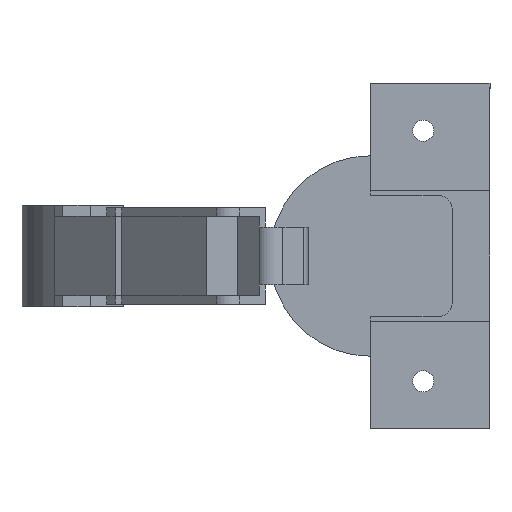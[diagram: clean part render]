
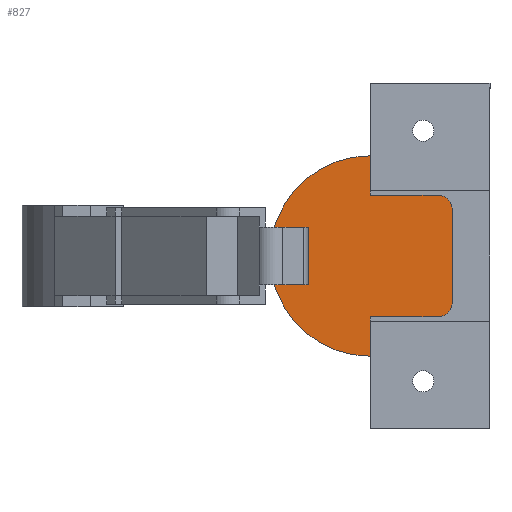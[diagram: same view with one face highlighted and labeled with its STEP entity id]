
A CAD part, front view. The second image highlights one B-rep face of the part: STEP entity #827.
In plain terms, the highlighted planar face has unit normal (0, -1, 0).
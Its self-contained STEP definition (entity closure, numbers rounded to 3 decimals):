
#8 = ORIENTED_EDGE ( 'NONE', *, *, #2377, .F. ) ;
#10 = CARTESIAN_POINT ( 'NONE',  ( 40.305, -57.2, -18. ) ) ;
#30 = CARTESIAN_POINT ( 'NONE',  ( 28.996, -57.2, -5.2 ) ) ;
#47 = EDGE_CURVE ( 'NONE', #2865, #2206, #206, .T. ) ;
#74 = CARTESIAN_POINT ( 'NONE',  ( 40.305, -57.2, 10.9 ) ) ;
#83 = CARTESIAN_POINT ( 'NONE',  ( 40.305, -57.2, 18. ) ) ;
#85 = VERTEX_POINT ( 'NONE', #30 ) ;
#87 = CARTESIAN_POINT ( 'NONE',  ( 55.005, -57.2, 8.4 ) ) ;
#92 = CIRCLE ( 'NONE', #2483, 2.5 ) ;
#94 = FACE_BOUND ( 'NONE', #993, .T. ) ;
#99 = CARTESIAN_POINT ( 'NONE',  ( 28.996, -57.2, -5.2 ) ) ;
#120 = EDGE_CURVE ( 'Kante1', #2206, #1807, #2240, .T. ) ;
#161 = ORIENTED_EDGE ( 'NONE', *, *, #1430, .F. ) ;
#206 = CIRCLE ( 'NONE', #2342, 18. ) ;
#240 = LINE ( 'NONE', #99, #2784 ) ;
#255 = DIRECTION ( 'NONE',  ( 0., 0., -1. ) ) ;
#321 = PLANE ( 'NONE',  #2944 ) ;
#330 = DIRECTION ( 'NONE',  ( 0., -1., 0. ) ) ;
#355 = FACE_OUTER_BOUND ( 'NONE', #2515, .T. ) ;
#380 = EDGE_CURVE ( 'NONE', #1909, #1807, #783, .T. ) ;
#428 = EDGE_CURVE ( 'NONE', #1986, #1481, #1863, .T. ) ;
#434 = VECTOR ( 'NONE', #255, 1000. ) ;
#443 = ORIENTED_EDGE ( 'NONE', *, *, #1635, .F. ) ;
#451 = CARTESIAN_POINT ( 'NONE',  ( 55.005, -57.2, 8.4 ) ) ;
#536 = VERTEX_POINT ( 'NONE', #2127 ) ;
#541 = CARTESIAN_POINT ( 'NONE',  ( 40.305, -57.2, 18. ) ) ;
#558 = DIRECTION ( 'NONE',  ( 0., 0., 1. ) ) ;
#573 = CARTESIAN_POINT ( 'NONE',  ( 52.505, -57.2, -8.4 ) ) ;
#650 = VECTOR ( 'NONE', #698, 1000. ) ;
#677 = CARTESIAN_POINT ( 'NONE',  ( 22.499, -57.2, 5.2 ) ) ;
#698 = DIRECTION ( 'NONE',  ( 0., 0., -1. ) ) ;
#783 = LINE ( 'NONE', #2806, #815 ) ;
#787 = ORIENTED_EDGE ( 'NONE', *, *, #2979, .F. ) ;
#800 = VERTEX_POINT ( 'NONE', #87 ) ;
#805 = VERTEX_POINT ( 'NONE', #2275 ) ;
#810 = CARTESIAN_POINT ( 'NONE',  ( 22.499, -57.2, -5.2 ) ) ;
#815 = VECTOR ( 'NONE', #3034, 1000. ) ;
#827 = ADVANCED_FACE ( 'NONE', ( #94, #355 ), #321, .T. ) ;
#836 = ORIENTED_EDGE ( 'NONE', *, *, #1710, .F. ) ;
#843 = DIRECTION ( 'NONE',  ( 0., 1., 0. ) ) ;
#891 = DIRECTION ( 'NONE',  ( -1., 0., 0. ) ) ;
#975 = DIRECTION ( 'NONE',  ( 0., -1., 0. ) ) ;
#993 = EDGE_LOOP ( 'NONE', ( #2614, #3033, #443, #1331 ) ) ;
#1079 = VECTOR ( 'NONE', #558, 1000. ) ;
#1080 = CARTESIAN_POINT ( 'NONE',  ( 40.305, -57.2, -10.9 ) ) ;
#1155 = VECTOR ( 'NONE', #2469, 1000. ) ;
#1160 = ORIENTED_EDGE ( 'NONE', *, *, #47, .T. ) ;
#1176 = EDGE_CURVE ( 'NONE', #85, #3007, #2811, .T. ) ;
#1277 = CARTESIAN_POINT ( 'NONE',  ( 52.505, -57.2, 8.4 ) ) ;
#1294 = DIRECTION ( 'NONE',  ( -1., 0., 0. ) ) ;
#1331 = ORIENTED_EDGE ( 'NONE', *, *, #428, .F. ) ;
#1389 = CARTESIAN_POINT ( 'NONE',  ( 55.005, -57.2, -8.4 ) ) ;
#1418 = VECTOR ( 'NONE', #2509, 1000. ) ;
#1430 = EDGE_CURVE ( 'NONE', #800, #2649, #2878, .T. ) ;
#1432 = CARTESIAN_POINT ( 'NONE',  ( 28.996, -57.2, 5.2 ) ) ;
#1460 = VECTOR ( 'NONE', #2081, 1000. ) ;
#1466 = CIRCLE ( 'NONE', #1884, 2.5 ) ;
#1481 = VERTEX_POINT ( 'NONE', #2581 ) ;
#1635 = EDGE_CURVE ( 'NONE', #1481, #3007, #1833, .T. ) ;
#1710 = EDGE_CURVE ( 'NONE', #536, #800, #1466, .T. ) ;
#1722 = EDGE_CURVE ( 'NONE', #85, #1986, #240, .T. ) ;
#1766 = DIRECTION ( 'NONE',  ( 0., 0., 1. ) ) ;
#1807 = VERTEX_POINT ( 'NONE', #1080 ) ;
#1833 = LINE ( 'NONE', #2172, #434 ) ;
#1863 = LINE ( 'NONE', #677, #1460 ) ;
#1884 = AXIS2_PLACEMENT_3D ( 'NONE', #1277, #2473, #1294 ) ;
#1909 = VERTEX_POINT ( 'NONE', #2314 ) ;
#1986 = VERTEX_POINT ( 'NONE', #1432 ) ;
#2013 = DIRECTION ( 'NONE',  ( 1., 0., 0. ) ) ;
#2055 = CARTESIAN_POINT ( 'NONE',  ( 40.305, -57.2, 0. ) ) ;
#2081 = DIRECTION ( 'NONE',  ( -1., 0., 0. ) ) ;
#2127 = CARTESIAN_POINT ( 'NONE',  ( 52.505, -57.2, 10.9 ) ) ;
#2172 = CARTESIAN_POINT ( 'NONE',  ( 27.435, -57.2, -5.2 ) ) ;
#2206 = VERTEX_POINT ( 'NONE', #10 ) ;
#2210 = ORIENTED_EDGE ( 'NONE', *, *, #2322, .T. ) ;
#2240 = LINE ( 'NONE', #2942, #1155 ) ;
#2275 = CARTESIAN_POINT ( 'NONE',  ( 40.305, -57.2, 10.9 ) ) ;
#2314 = CARTESIAN_POINT ( 'NONE',  ( 52.505, -57.2, -10.9 ) ) ;
#2322 = EDGE_CURVE ( 'NONE', #805, #2865, #2349, .T. ) ;
#2342 = AXIS2_PLACEMENT_3D ( 'NONE', #2631, #975, #2861 ) ;
#2349 = LINE ( 'NONE', #83, #1079 ) ;
#2377 = EDGE_CURVE ( 'NONE', #805, #536, #2993, .T. ) ;
#2379 = ORIENTED_EDGE ( 'NONE', *, *, #380, .F. ) ;
#2469 = DIRECTION ( 'NONE',  ( 0., 0., 1. ) ) ;
#2473 = DIRECTION ( 'NONE',  ( 0., 1., 0. ) ) ;
#2483 = AXIS2_PLACEMENT_3D ( 'NONE', #573, #843, #2508 ) ;
#2508 = DIRECTION ( 'NONE',  ( -1., 0., 0. ) ) ;
#2509 = DIRECTION ( 'NONE',  ( -1., 0., 0. ) ) ;
#2515 = EDGE_LOOP ( 'NONE', ( #1160, #2659, #2379, #787, #161, #836, #8, #2210 ) ) ;
#2581 = CARTESIAN_POINT ( 'NONE',  ( 27.435, -57.2, 5.2 ) ) ;
#2614 = ORIENTED_EDGE ( 'NONE', *, *, #1722, .F. ) ;
#2631 = CARTESIAN_POINT ( 'NONE',  ( 40.305, -57.2, 0. ) ) ;
#2649 = VERTEX_POINT ( 'NONE', #1389 ) ;
#2659 = ORIENTED_EDGE ( 'NONE', *, *, #120, .T. ) ;
#2670 = VECTOR ( 'NONE', #2013, 1000. ) ;
#2784 = VECTOR ( 'NONE', #1766, 1000. ) ;
#2806 = CARTESIAN_POINT ( 'NONE',  ( 40.305, -57.2, -10.9 ) ) ;
#2811 = LINE ( 'NONE', #810, #1418 ) ;
#2861 = DIRECTION ( 'NONE',  ( -1., 0., 0. ) ) ;
#2865 = VERTEX_POINT ( 'NONE', #541 ) ;
#2878 = LINE ( 'NONE', #451, #650 ) ;
#2942 = CARTESIAN_POINT ( 'NONE',  ( 40.305, -57.2, 18. ) ) ;
#2944 = AXIS2_PLACEMENT_3D ( 'NONE', #2055, #330, #891 ) ;
#2951 = CARTESIAN_POINT ( 'NONE',  ( 27.435, -57.2, -5.2 ) ) ;
#2979 = EDGE_CURVE ( 'NONE', #2649, #1909, #92, .T. ) ;
#2993 = LINE ( 'NONE', #74, #2670 ) ;
#3007 = VERTEX_POINT ( 'NONE', #2951 ) ;
#3033 = ORIENTED_EDGE ( 'NONE', *, *, #1176, .T. ) ;
#3034 = DIRECTION ( 'NONE',  ( -1., 0., 0. ) ) ;
